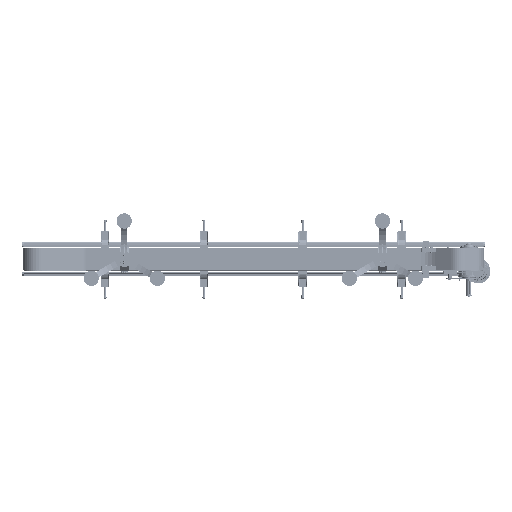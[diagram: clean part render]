
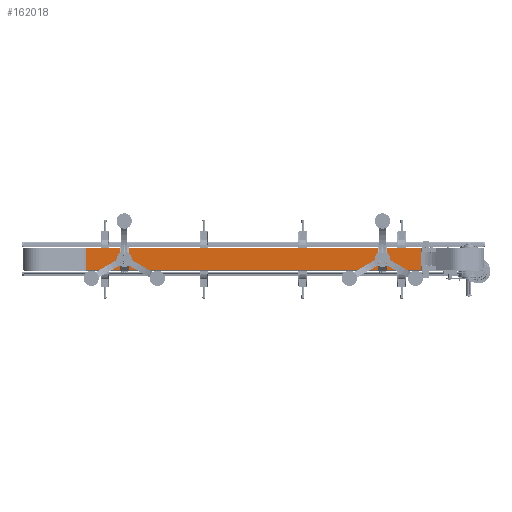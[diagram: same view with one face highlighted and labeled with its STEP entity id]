
A CAD part, front view. The second image highlights one B-rep face of the part: STEP entity #162018.
In plain terms, the highlighted planar face has unit normal (0, -1, 0).
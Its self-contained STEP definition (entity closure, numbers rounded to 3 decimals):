
#2213 = DIRECTION ( 'NONE',  ( 0., 0., 1. ) ) ;
#3729 = DIRECTION ( 'NONE',  ( 1., 0., 0. ) ) ;
#4375 = CARTESIAN_POINT ( 'NONE',  ( -57.15, -105.8, 1746. ) ) ;
#11429 = CARTESIAN_POINT ( 'NONE',  ( 57.15, -105.8, 1746. ) ) ;
#22521 = VECTOR ( 'NONE', #132132, 1000. ) ;
#22929 = EDGE_CURVE ( 'NONE', #91914, #35617, #40629, .T. ) ;
#26203 = VECTOR ( 'NONE', #3729, 1000. ) ;
#29315 = VECTOR ( 'NONE', #2213, 1000. ) ;
#30014 = CARTESIAN_POINT ( 'NONE',  ( 57.15, -105.8, 0. ) ) ;
#30241 = EDGE_CURVE ( 'NONE', #158198, #99479, #142232, .T. ) ;
#35617 = VERTEX_POINT ( 'NONE', #11429 ) ;
#37701 = AXIS2_PLACEMENT_3D ( 'NONE', #139400, #38108, #102495 ) ;
#38108 = DIRECTION ( 'NONE',  ( 0., -1., 0. ) ) ;
#40481 = ORIENTED_EDGE ( 'NONE', *, *, #81251, .T. ) ;
#40629 = LINE ( 'NONE', #142768, #26203 ) ;
#40772 = CARTESIAN_POINT ( 'NONE',  ( -57.15, -105.8, 0. ) ) ;
#62390 = FACE_OUTER_BOUND ( 'NONE', #137902, .T. ) ;
#64625 = CARTESIAN_POINT ( 'NONE',  ( 57.15, -105.8, 0. ) ) ;
#70802 = CARTESIAN_POINT ( 'NONE',  ( -57.15, -105.8, 0. ) ) ;
#81251 = EDGE_CURVE ( 'NONE', #99479, #35617, #150923, .T. ) ;
#82893 = VECTOR ( 'NONE', #163487, 1000. ) ;
#91914 = VERTEX_POINT ( 'NONE', #4375 ) ;
#92848 = CARTESIAN_POINT ( 'NONE',  ( 57.15, -105.8, 0. ) ) ;
#95082 = ORIENTED_EDGE ( 'NONE', *, *, #131186, .F. ) ;
#99479 = VERTEX_POINT ( 'NONE', #92848 ) ;
#102495 = DIRECTION ( 'NONE',  ( 0., 0., -1. ) ) ;
#131186 = EDGE_CURVE ( 'NONE', #158198, #91914, #155481, .T. ) ;
#132132 = DIRECTION ( 'NONE',  ( 1., 0., 0. ) ) ;
#132459 = ORIENTED_EDGE ( 'NONE', *, *, #22929, .F. ) ;
#137902 = EDGE_LOOP ( 'NONE', ( #40481, #132459, #95082, #147560 ) ) ;
#139400 = CARTESIAN_POINT ( 'NONE',  ( 57.15, -105.8, 0. ) ) ;
#142232 = LINE ( 'NONE', #30014, #22521 ) ;
#142768 = CARTESIAN_POINT ( 'NONE',  ( 57.15, -105.8, 1746. ) ) ;
#147560 = ORIENTED_EDGE ( 'NONE', *, *, #30241, .T. ) ;
#150923 = LINE ( 'NONE', #64625, #82893 ) ;
#152809 = PLANE ( 'NONE',  #37701 ) ;
#155481 = LINE ( 'NONE', #40772, #29315 ) ;
#158198 = VERTEX_POINT ( 'NONE', #70802 ) ;
#162018 = ADVANCED_FACE ( 'NONE', ( #62390 ), #152809, .T. ) ;
#163487 = DIRECTION ( 'NONE',  ( 0., 0., 1. ) ) ;
